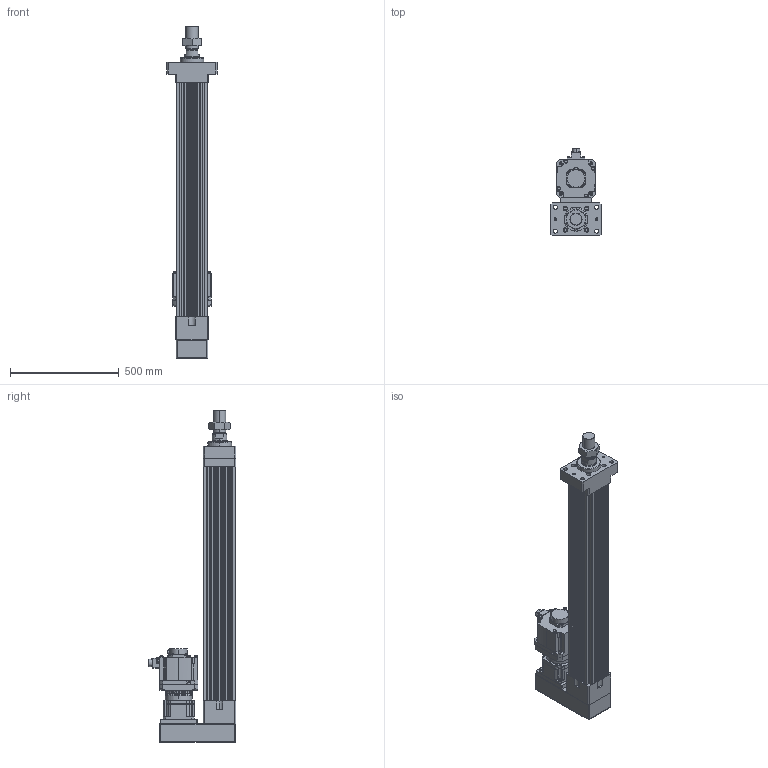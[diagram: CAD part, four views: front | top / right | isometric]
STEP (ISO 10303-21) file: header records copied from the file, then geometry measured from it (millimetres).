
FILE_DESCRIPTION (( 'STEP AP203' ), '1' );
FILE_NAME ('HES150NS(HS)-P800-W035G00-M-FMA.STEP', '2023-01-31T10:51:49', ( 'tms' ), ( '' ), 'SwSTEP 2.0', 'SolidWorks 2013', '' );
FILE_SCHEMA (( 'CONFIG_CONTROL_DESIGN' ));
Length unit declared in the file: millimetre
Products named in the file (9): HES150 ROD M ST800; HES150-P800-G142-FMA; P0403500801; HG-SR352; P1301500001; HES150NS(HS)-P800-W035G00-M-FMA; M56X2.0P; AB142-003[HG-SR352]; AB1421
Assembly tree (8 placements, depth 3):
  HES150NS(HS)-P800-W035G00-M-FMA
    HES150-P800-G142-FMA
    HES150 ROD M ST800
    M56X2.0P
    AB142-003[HG-SR352]
      AB1421
      P1301500001
      P0403500801
    HG-SR352
Bounding box: 230 x 403.85 x 1526 mm (x, y, z)
Volume: 23835317.2 mm3; surface area: 2455686.7 mm2
Topology: 4 solids, 18 shells, 1426 faces, 3722 edges, 2416 vertices
Faces by surface type: cylinder 669, plane 531, cone 144, bspline 76, torus 6
Entity records: 52806 total; most frequent: CARTESIAN_POINT 16363, DIRECTION 7620, ORIENTED_EDGE 7346, EDGE_CURVE 3695, AXIS2_PLACEMENT_3D 2898, VERTEX_POINT 2416, VECTOR 1824, LINE 1824
